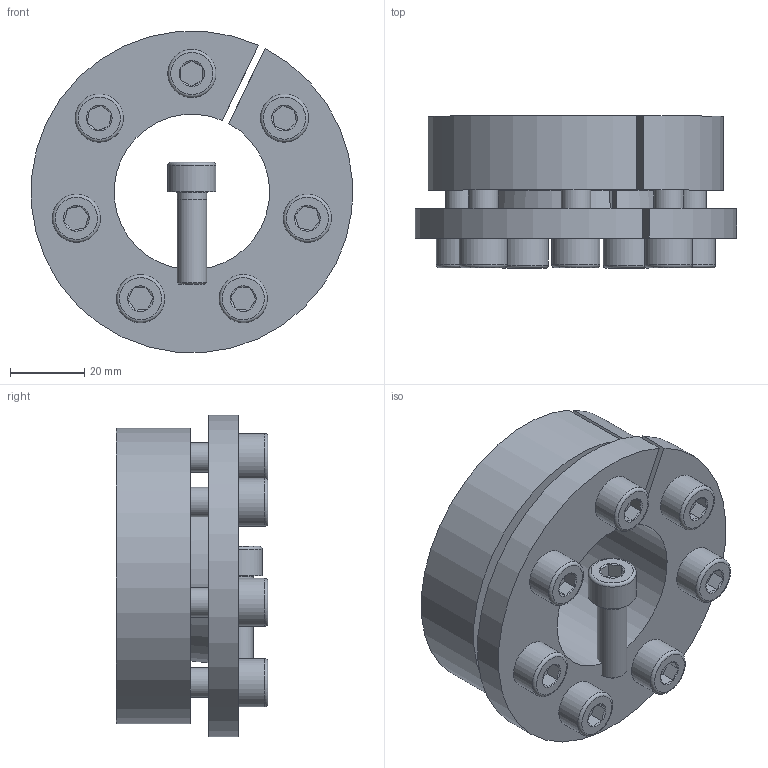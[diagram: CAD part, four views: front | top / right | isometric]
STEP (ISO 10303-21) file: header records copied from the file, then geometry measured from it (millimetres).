
FILE_DESCRIPTION( ( 'Unknown' ), '1' );
FILE_NAME( 'C:/Dokumente und Einstellungen/Sven/Desktop/15/KBS 15 - 42 x 80.stp', 'Unknown', ( 'Unknown' ), ( 'Unknown' ), 'XStep 1.0', 'Unknown', ' ' );
FILE_SCHEMA( ( 'automotive_design' ) );
Length unit declared in the file: millimetre
Products named in the file (3): Assem1; ISO EN DIN 4762 M8x25_24; KBS 15 - 42 x 80_0
Bounding box: 86.78 x 41 x 86.75 mm (x, y, z)
Volume: 219954 mm3; surface area: 74610.7 mm2
Topology: 10 solids, 10 shells, 252 faces, 524 edges, 324 vertices
Faces by surface type: plane 110, cylinder 66, cone 60, torus 16
Full cylindrical faces by diameter (mm): 6.647 x14, 7 x8, 8 x16, 9 x14, 13 x8
Entity records: 1693 total; most frequent: CARTESIAN_POINT 269, DIRECTION 261, ORIENTED_EDGE 186, AXIS2_PLACEMENT_3D 115, EDGE_LOOP 104, EDGE_CURVE 93, FACE_OUTER_BOUND 71, VERTEX_POINT 71
